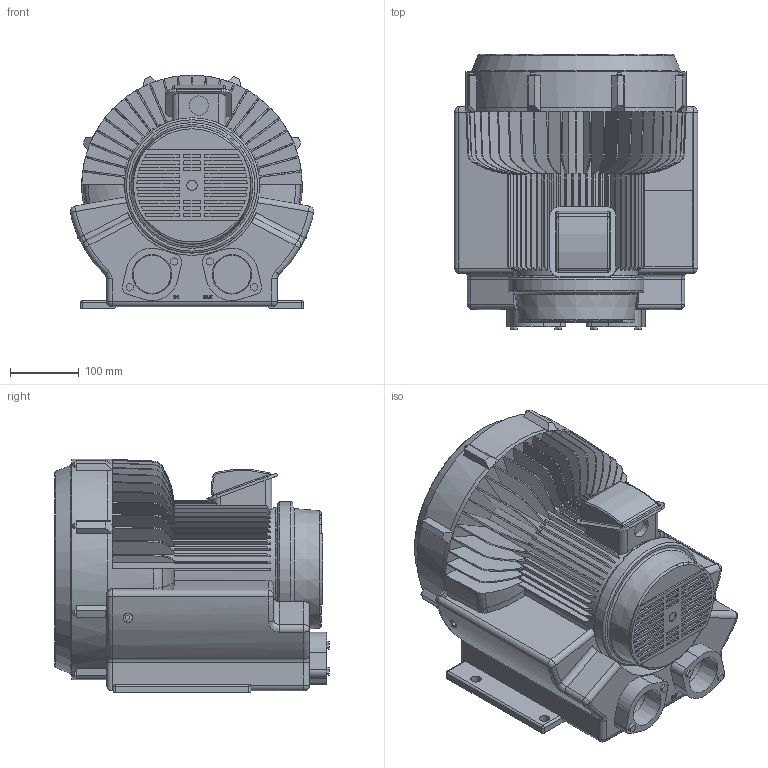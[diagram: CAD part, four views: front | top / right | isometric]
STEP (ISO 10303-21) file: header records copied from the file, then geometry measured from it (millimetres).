
FILE_DESCRIPTION(/* description */ ('昭和電機'),/* implementation_level */ '2;1');
FILE_NAME(/* name */ 'C:\Users\Fujimoto-s\OneDrive\Inventor\WorkSpace\\X2\305D306E4ED6\X0\\ホームページ用\\X2\30C030A630F330ED30FC30C97D206750\X0\\ポンプ類\U2V-220\U2V-220.stp',/* time_stamp */ '2024-08-09T16:06:28+09:00',/* author */ ('Fujimoto-s'),/* organization */ (''),/* preprocessor_version */ 'ST-DEVELOPER v15.2',/* originating_system */ 'Autodesk Inventor 2014',/* authorisation */ '');
FILE_SCHEMA (('AUTOMOTIVE_DESIGN { 1 0 10303 214 3 1 1 }'));
Length unit declared in the file: millimetre
Products named in the file (1): U2V-220
Bounding box: 353.57 x 399 x 339 mm (x, y, z)
Volume: 25021025.1 mm3; surface area: 1058197.3 mm2
Topology: 1 solids, 1 shells, 837 faces, 2167 edges, 1406 vertices
Faces by surface type: plane 527, cylinder 140, bspline 63, torus 48, cone 47, sphere 12
Full cylindrical faces by diameter (mm): 7 x8, 15 x5, 28 x1, 55 x2, 180 x1, 196.5 x1, 320 x1
Entity records: 27003 total; most frequent: CARTESIAN_POINT 7061, ORIENTED_EDGE 4254, DIRECTION 3949, EDGE_CURVE 2127, VERTEX_POINT 1396, AXIS2_PLACEMENT_3D 1339, LINE 1271, VECTOR 1271
